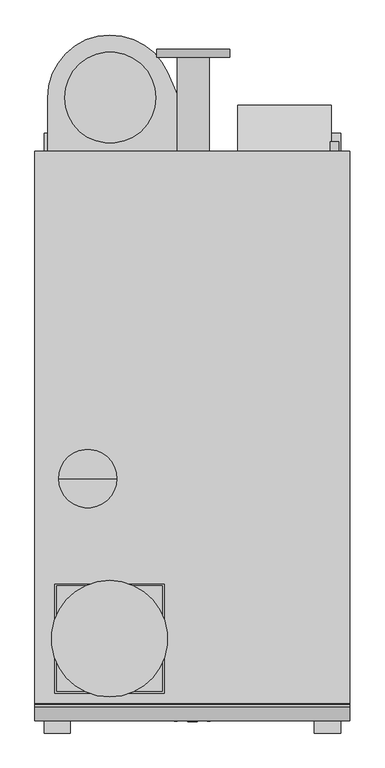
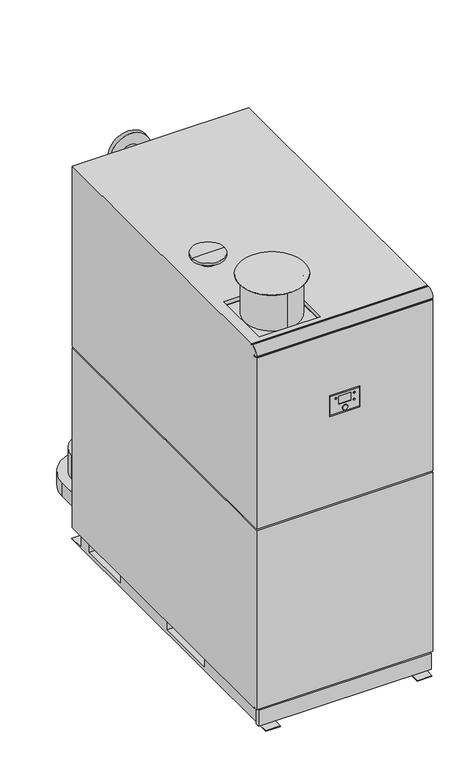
"""IFC4 building model written with IfcOpenShell, lengths in millimetres: unitary equipment geometry, AIC_Boiler_Nesta_Plus_280-840 : N 840 FS Chimney Type B."""

from ifc_helpers import new_model, si_unit, point, frame, frame_2d, origin, place, context, project, spatial, polyline, circle_curve, trimmed, segment, composite_curve, outline, extrude, faceted_brep, source, transform, mapped, element, save
from ifc_brep_helpers import plane_surface, cylinder_surface, advanced_brep


def unitary_equipment_1de9a510(model_context):
    return source(origin(), model_context, "Body", "SolidModel", [
        extrude(outline(composite_curve([segment(trimmed(circle_curve(frame_2d((100.0, 329.5)), 13.35), [point((100.0, 342.85))], [point((100.0, 316.15))], False, "CARTESIAN"), True, "CONTINUOUS"), segment(trimmed(circle_curve(frame_2d((100.0, 329.5)), 13.35), [point((100.0, 316.15))], [point((100.0, 342.85))], False, "CARTESIAN"), True, "CONTINUOUS")], self_intersect=False)), frame((0.0, 91.0, 0.0), z_axis=(0.0, 1.0, 0.0), x_axis=(0.0, 0.0, 1.0)), (0.0, 0.0, 1.0), 24.0),
        faceted_brep([(382.5, 0.0, 80.0), (382.5, 126.0, 80.0), (382.5, 126.0, 81.0), (382.5, 1.0, 81.0), (382.5, 1.0, 140.0), (382.5, 126.0, 140.0), (382.5, 126.0, 242.0), (382.5, 0.0, 310.0), (124.5, 0.0, 80.0), (124.5, 0.0, 310.0), (124.5, 126.0, 242.0), (124.5, 126.0, 80.0), (300.5, 126.0, 140.0), (300.5, 126.0, 81.0), (349.5, 1.0, 140.0), (349.5, 1.0, 81.0), (349.5, 91.0, 81.0), (349.5, 91.0, 140.0), (300.5, 91.0, 81.0), (300.5, 91.0, 140.0)], [[[0, 1, 2, 3, 4, 5, 6, 7]], [[8, 9, 10, 11]], [[1, 0, 8, 11]], [[11, 10, 6, 5, 12, 13, 2, 1]], [[7, 6, 10, 9]], [[0, 7, 9, 8]], [[14, 4, 3, 15]], [[14, 15, 16, 17]], [[15, 3, 2, 13, 18, 16]], [[4, 14, 17, 19, 12, 5]], [[19, 17, 16, 18]], [[19, 18, 13, 12]]]),
        extrude(outline(composite_curve([segment(trimmed(circle_curve(frame_2d((1520.0, 0.0)), 13.0), [point((1520.0, -13.0))], [point((1520.0, 13.0))], False, "CARTESIAN"), True, "CONTINUOUS"), segment(trimmed(circle_curve(frame_2d((1520.0, 0.0)), 13.0), [point((1520.0, 13.0))], [point((1520.0, -13.0))], False, "CARTESIAN"), True, "CONTINUOUS")], self_intersect=False)), frame((0.0, -1568.0, 0.0), z_axis=(0.0, 1.0, 0.0), x_axis=(0.0, 0.0, 1.0)), (0.0, 0.0, 1.0), 3.0),
        extrude(outline(composite_curve([segment(trimmed(circle_curve(frame_2d((1581.0, -45.0)), 4.0), [point((1581.0, -49.0))], [point((1581.0, -41.0))], False, "CARTESIAN"), True, "CONTINUOUS"), segment(trimmed(circle_curve(frame_2d((1581.0, -45.0)), 4.0), [point((1581.0, -41.0))], [point((1581.0, -49.0))], False, "CARTESIAN"), True, "CONTINUOUS")], self_intersect=False)), frame((0.0, -1567.0, 0.0), z_axis=(0.0, 1.0, 0.0), x_axis=(0.0, 0.0, 1.0)), (0.0, 0.0, 1.0), 2.0),
        extrude(outline(composite_curve([segment(trimmed(circle_curve(frame_2d((1581.0, 45.0)), 4.0), [point((1581.0, 41.0))], [point((1581.0, 49.0))], False, "CARTESIAN"), True, "CONTINUOUS"), segment(trimmed(circle_curve(frame_2d((1581.0, 45.0)), 4.0), [point((1581.0, 49.0))], [point((1581.0, 41.0))], False, "CARTESIAN"), True, "CONTINUOUS")], self_intersect=False)), frame((0.0, -1567.0, 0.0), z_axis=(0.0, 1.0, 0.0), x_axis=(0.0, 0.0, 1.0)), (0.0, 0.0, 1.0), 2.0),
        extrude(outline(composite_curve([segment(trimmed(circle_curve(frame_2d((1546.0, 45.0)), 4.0), [point((1546.0, 41.0))], [point((1546.0, 49.0))], False, "CARTESIAN"), True, "CONTINUOUS"), segment(trimmed(circle_curve(frame_2d((1546.0, 45.0)), 4.0), [point((1546.0, 49.0))], [point((1546.0, 41.0))], False, "CARTESIAN"), True, "CONTINUOUS")], self_intersect=False)), frame((0.0, -1567.0, 0.0), z_axis=(0.0, 1.0, 0.0), x_axis=(0.0, 0.0, 1.0)), (0.0, 0.0, 1.0), 2.0),
        faceted_brep([(71.0, -1555.0, 1596.0), (71.0, -1555.0, 1502.0), (-71.0, -1555.0, 1502.0), (-71.0, -1555.0, 1596.0), (71.0, -1565.0, 1596.0), (-71.0, -1565.0, 1596.0), (-71.0, -1565.0, 1502.0), (71.0, -1565.0, 1502.0), (-30.0, -1565.0, 1585.0), (30.0, -1565.0, 1585.0), (30.0, -1565.0, 1545.0), (-30.0, -1565.0, 1545.0), (30.0, -1564.0, 1585.0), (-30.0, -1564.0, 1585.0), (-30.0, -1564.0, 1545.0), (30.0, -1564.0, 1545.0)], [[[0, 1, 2, 3]], [[4, 5, 6, 7], [8, 9, 10, 11]], [[0, 3, 5, 4]], [[3, 2, 6, 5]], [[2, 1, 7, 6]], [[1, 0, 4, 7]], [[12, 13, 14, 15]], [[13, 12, 9, 8]], [[14, 13, 8, 11]], [[15, 14, 11, 10]], [[12, 15, 10, 9]]]),
        advanced_brep(
        [(-287.5, -900.0, 1970.0), (-324.5, -900.0, 1970.0), (-250.5, -900.0, 1970.0), (-207.5, -900.0, 2017.0), (-367.5, -900.0, 2017.0), (-287.5, -900.0, 2017.0), (-207.5, -900.0, 2006.0), (-367.5, -900.0, 2006.0), (-250.5, -900.0, 2006.0), (-324.5, -900.0, 2006.0)],
        [
            (0, 1),
            (1, 2, circle_curve(frame((-287.5, -900.0, 1970.0), z_axis=(0.0, 0.0, -1.0), x_axis=(-1.0, 0.0, 0.0)), 37.0)),
            (2, 0),
            (2, 1, circle_curve(frame((-287.5, -900.0, 1970.0), z_axis=(0.0, 0.0, -1.0), x_axis=(-1.0, 0.0, 0.0)), 37.0)),
            (3, 4, circle_curve(frame((-287.5, -900.0, 2017.0), z_axis=(0.0, 0.0, 1.0), x_axis=(-1.0, 0.0, 0.0)), 80.0)),
            (4, 5),
            (5, 3),
            (4, 3, circle_curve(frame((-287.5, -900.0, 2017.0), z_axis=(0.0, 0.0, 1.0), x_axis=(-1.0, 0.0, 0.0)), 80.0)),
            (6, 7, circle_curve(frame((-287.5, -900.0, 2006.0), z_axis=(0.0, 0.0, 1.0), x_axis=(-1.0, 0.0, 0.0)), 80.0)),
            (7, 4),
            (3, 6),
            (7, 6, circle_curve(frame((-287.5, -900.0, 2006.0), z_axis=(0.0, 0.0, 1.0), x_axis=(-1.0, 0.0, 0.0)), 80.0)),
            (8, 9, circle_curve(frame((-287.5, -900.0, 2006.0), z_axis=(0.0, 0.0, 1.0), x_axis=(-1.0, 0.0, 0.0)), 37.0)),
            (9, 7),
            (6, 8),
            (9, 8, circle_curve(frame((-287.5, -900.0, 2006.0), z_axis=(0.0, 0.0, 1.0), x_axis=(-1.0, 0.0, 0.0)), 37.0)),
            (1, 9),
            (8, 2),
        ],
        [
            plane_surface(frame((-287.5, -900.0, 1970.0), z_axis=(0.0, 0.0, -1.0), x_axis=(-1.0, 0.0, 0.0))),
            plane_surface(frame((-287.5, -900.0, 2017.0), z_axis=(0.0, 0.0, 1.0), x_axis=(-1.0, 0.0, 0.0))),
            cylinder_surface(frame((-287.5, -900.0, 1945.0), z_axis=(0.0, 0.0, -1.0), x_axis=(-1.0, 0.0, 0.0)), 80.0),
            plane_surface(frame((-287.5, -900.0, 2006.0), z_axis=(0.0, 0.0, -1.0), x_axis=(-1.0, 0.0, 0.0))),
            cylinder_surface(frame((-287.5, -900.0, 1945.0), z_axis=(0.0, 0.0, -1.0), x_axis=(-1.0, 0.0, 0.0)), 37.0),
        ],
        [
            (0, [[1, 2, 3]]),
            (0, [[-3, 4, -1]]),
            (1, [[5, 6, 7]]),
            (1, [[8, -7, -6]]),
            (2, [[9, 10, -5, 11]]),
            (2, [[12, -11, -8, -10]]),
            (3, [[13, 14, -9, 15]]),
            (3, [[16, -15, -12, -14]]),
            (4, [[-2, 17, -13, 18]]),
            (4, [[-4, -18, -16, -17]]),
        ],
    ),
        extrude(outline(composite_curve([segment(trimmed(circle_curve(frame_2d((1038.0, 390.5)), 11.6), [point((1038.0, 378.9))], [point((1038.0, 402.1))], False, "CARTESIAN"), True, "CONTINUOUS"), segment(trimmed(circle_curve(frame_2d((1038.0, 390.5)), 11.6), [point((1038.0, 402.1))], [point((1038.0, 378.9))], False, "CARTESIAN"), True, "CONTINUOUS")], self_intersect=False)), frame((0.0, 0.0, 0.0), z_axis=(0.0, 1.0, 0.0), x_axis=(0.0, 0.0, 1.0)), (0.0, 0.0, 1.0), 26.0),
        advanced_brep(
        [(-227.5, -1180.0, 2154.0), (-227.5, -1500.0, 2154.0), (-227.5, -1475.0, 2154.0), (-227.5, -1205.0, 2154.0), (-227.5, -1180.0, 2155.0), (-227.5, -1500.0, 2155.0), (-227.5, -1205.0, 1950.0), (-227.5, -1475.0, 1950.0)],
        [
            (0, 1, circle_curve(frame((-227.5, -1340.0, 2154.0), z_axis=(0.0, 0.0, -1.0), x_axis=(0.0, -1.0, 0.0)), 160.0)),
            (1, 0, circle_curve(frame((-227.5, -1340.0, 2154.0), z_axis=(0.0, 0.0, -1.0), x_axis=(0.0, -1.0, 0.0)), 160.0)),
            (2, 3, circle_curve(frame((-227.5, -1340.0, 2154.0), z_axis=(0.0, 0.0, 1.0), x_axis=(0.0, -1.0, 0.0)), 135.0)),
            (3, 2, circle_curve(frame((-227.5, -1340.0, 2154.0), z_axis=(0.0, 0.0, 1.0), x_axis=(0.0, -1.0, 0.0)), 135.0)),
            (4, 5, circle_curve(frame((-227.5, -1340.0, 2155.0), z_axis=(0.0, 0.0, 1.0), x_axis=(0.0, -1.0, 0.0)), 160.0)),
            (5, 4, circle_curve(frame((-227.5, -1340.0, 2155.0), z_axis=(0.0, 0.0, 1.0), x_axis=(0.0, -1.0, 0.0)), 160.0)),
            (0, 4),
            (5, 1),
            (6, 7, circle_curve(frame((-227.5, -1340.0, 1950.0), z_axis=(0.0, 0.0, -1.0), x_axis=(0.0, -1.0, 0.0)), 135.0)),
            (7, 6, circle_curve(frame((-227.5, -1340.0, 1950.0), z_axis=(0.0, 0.0, -1.0), x_axis=(0.0, -1.0, 0.0)), 135.0)),
            (6, 3),
            (2, 7),
        ],
        [
            plane_surface(frame((-227.5, -1500.0, 2154.0), z_axis=(0.0, 0.0, -1.0), x_axis=(-1.0, 0.0, 0.0))),
            plane_surface(frame((-227.5, -1500.0, 2155.0), z_axis=(0.0, 0.0, 1.0), x_axis=(1.0, 0.0, 0.0))),
            cylinder_surface(frame((-227.5, -1340.0, 2155.0), z_axis=(0.0, 0.0, -1.0), x_axis=(0.0, -1.0, 0.0)), 160.0),
            plane_surface(frame((-227.5, -1475.0, 1950.0), z_axis=(0.0, 0.0, -1.0), x_axis=(-1.0, 0.0, 0.0))),
            cylinder_surface(frame((-227.5, -1340.0, 2154.0), z_axis=(0.0, 0.0, -1.0), x_axis=(0.0, -1.0, 0.0)), 135.0),
        ],
        [
            (0, [[1, 2], [3, 4]]),
            (1, [[5, 6]]),
            (2, [[-1, 7, -6, 8]]),
            (2, [[-2, -8, -5, -7]]),
            (3, [[9, 10]]),
            (4, [[-9, 11, -3, 12]]),
            (4, [[-10, -12, -4, -11]]),
        ],
    ),
        extrude(outline(polyline([(-82.5, -1195.0), (-82.5, -1485.0), (-372.5, -1485.0), (-372.5, -1195.0), (-82.5, -1195.0)])), frame((0.0, 0.0, 1950.0), z_axis=(0.0, 0.0, 1.0), x_axis=(1.0, 0.0, 0.0)), (0.0, 0.0, 1.0), 1.0),
        advanced_brep(
        [(102.5, 258.0, 1731.0), (-97.5, 258.0, 1731.0), (46.5, 258.0, 1731.0), (-41.5, 258.0, 1731.0), (102.5, 280.0, 1731.0), (-97.5, 280.0, 1731.0), (-41.5, -10.0, 1731.0), (46.5, -10.0, 1731.0)],
        [
            (0, 1, circle_curve(frame((2.5, 258.0, 1731.0), z_axis=(0.0, -1.0, 0.0), x_axis=(-1.0, 0.0, 0.0)), 100.0)),
            (1, 0, circle_curve(frame((2.5, 258.0, 1731.0), z_axis=(0.0, -1.0, 0.0), x_axis=(-1.0, 0.0, 0.0)), 100.0)),
            (2, 3, circle_curve(frame((2.5, 258.0, 1731.0), z_axis=(0.0, 1.0, 0.0), x_axis=(1.0, 0.0, 0.0)), 44.0)),
            (3, 2, circle_curve(frame((2.5, 258.0, 1731.0), z_axis=(0.0, 1.0, 0.0), x_axis=(1.0, 0.0, 0.0)), 44.0)),
            (4, 5, circle_curve(frame((2.5, 280.0, 1731.0), z_axis=(0.0, 1.0, 0.0), x_axis=(-1.0, 0.0, 0.0)), 100.0)),
            (5, 4, circle_curve(frame((2.5, 280.0, 1731.0), z_axis=(0.0, 1.0, 0.0), x_axis=(-1.0, 0.0, 0.0)), 100.0)),
            (1, 5),
            (4, 0),
            (6, 7, circle_curve(frame((2.5, -10.0, 1731.0), z_axis=(0.0, -1.0, 0.0), x_axis=(1.0, 0.0, 0.0)), 44.0)),
            (7, 6, circle_curve(frame((2.5, -10.0, 1731.0), z_axis=(0.0, -1.0, 0.0), x_axis=(1.0, 0.0, 0.0)), 44.0)),
            (6, 3),
            (2, 7),
        ],
        [
            plane_surface(frame((-97.5, 258.0, 1731.0), z_axis=(0.0, -1.0, 0.0), x_axis=(0.0, 0.0, -1.0))),
            plane_surface(frame((-97.5, 280.0, 1731.0), z_axis=(0.0, 1.0, 0.0), x_axis=(0.0, 0.0, 1.0))),
            cylinder_surface(frame((2.5, 258.0, 1731.0), z_axis=(0.0, 1.0, 0.0), x_axis=(-1.0, 0.0, 0.0)), 100.0),
            plane_surface(frame((46.5, -10.0, 1731.0), z_axis=(0.0, -1.0, 0.0), x_axis=(0.0, 0.0, 1.0))),
            cylinder_surface(frame((2.5, 280.0, 1731.0), z_axis=(0.0, -1.0, 0.0), x_axis=(1.0, 0.0, 0.0)), 44.0),
        ],
        [
            (0, [[1, 2], [3, 4]]),
            (1, [[5, 6]]),
            (2, [[-2, 7, -5, 8]]),
            (2, [[-1, -8, -6, -7]]),
            (3, [[9, 10]]),
            (4, [[-9, 11, -3, 12]]),
            (4, [[-10, -12, -4, -11]]),
        ],
    ),
        advanced_brep(
        [(-41.5, 0.0, 360.0), (46.5, 0.0, 360.0), (102.5, 280.0, 360.0), (-97.5, 280.0, 360.0), (-41.5, 258.0, 360.0), (46.5, 258.0, 360.0), (102.5, 258.0, 360.0), (-97.5, 258.0, 360.0)],
        [
            (0, 1, circle_curve(frame((2.5, 0.0, 360.0), z_axis=(0.0, -1.0, 0.0), x_axis=(1.0, 0.0, 0.0)), 44.0)),
            (1, 0, circle_curve(frame((2.5, 0.0, 360.0), z_axis=(0.0, -1.0, 0.0), x_axis=(1.0, 0.0, 0.0)), 44.0)),
            (2, 3, circle_curve(frame((2.5, 280.0, 360.0), z_axis=(0.0, 1.0, 0.0), x_axis=(-1.0, 0.0, 0.0)), 100.0)),
            (3, 2, circle_curve(frame((2.5, 280.0, 360.0), z_axis=(0.0, 1.0, 0.0), x_axis=(-1.0, 0.0, 0.0)), 100.0)),
            (0, 4),
            (4, 5, circle_curve(frame((2.5, 258.0, 360.0), z_axis=(0.0, -1.0, 0.0), x_axis=(1.0, 0.0, 0.0)), 44.0)),
            (5, 1),
            (5, 4, circle_curve(frame((2.5, 258.0, 360.0), z_axis=(0.0, -1.0, 0.0), x_axis=(1.0, 0.0, 0.0)), 44.0)),
            (6, 7, circle_curve(frame((2.5, 258.0, 360.0), z_axis=(0.0, -1.0, 0.0), x_axis=(-1.0, 0.0, 0.0)), 100.0)),
            (7, 6, circle_curve(frame((2.5, 258.0, 360.0), z_axis=(0.0, -1.0, 0.0), x_axis=(-1.0, 0.0, 0.0)), 100.0)),
            (7, 3),
            (2, 6),
        ],
        [
            plane_surface(frame((46.5, 0.0, 360.0), z_axis=(0.0, -1.0, 0.0), x_axis=(0.0, 0.0, 1.0))),
            plane_surface(frame((46.5, 280.0, 360.0), z_axis=(0.0, 1.0, 0.0), x_axis=(0.0, 0.0, -1.0))),
            cylinder_surface(frame((2.5, 280.0, 360.0), z_axis=(0.0, -1.0, 0.0), x_axis=(1.0, 0.0, 0.0)), 44.0),
            plane_surface(frame((-97.5, 258.0, 360.0), z_axis=(0.0, -1.0, 0.0), x_axis=(0.0, 0.0, -1.0))),
            cylinder_surface(frame((2.5, 258.0, 360.0), z_axis=(0.0, 1.0, 0.0), x_axis=(-1.0, 0.0, 0.0)), 100.0),
        ],
        [
            (0, [[1, 2]]),
            (1, [[3, 4]]),
            (2, [[-1, 5, 6, 7]]),
            (2, [[-2, -7, 8, -5]]),
            (3, [[9, 10], [-6, -8]]),
            (4, [[-10, 11, -3, 12]]),
            (4, [[-9, -12, -4, -11]]),
        ],
    ),
        extrude(outline(composite_curve([segment(trimmed(circle_curve(frame_2d((-225.5, 147.0)), 125.0), [point((-100.5, 147.0))], [point((-350.5, 147.0))], False, "CARTESIAN"), True, "CONTINUOUS"), segment(trimmed(circle_curve(frame_2d((-225.5, 147.0)), 125.0), [point((-350.5, 147.0))], [point((-100.5, 147.0))], False, "CARTESIAN"), True, "CONTINUOUS")], self_intersect=False)), frame((0.0, 0.0, 228.0), z_axis=(0.0, 0.0, 1.0), x_axis=(1.0, 0.0, 0.0)), (0.0, 0.0, 1.0), 122.0),
        extrude(outline(composite_curve([segment(trimmed(circle_curve(frame_2d((-225.5, 147.0)), 172.2664787), [point((-397.7664787, 147.0))], [point((-67.3169163, 215.2191449))], False, "CARTESIAN"), True, "CONTINUOUS"), segment(polyline([(-67.3169163, 215.2191449), (25.5, 0.0), (-397.7664787, 0.0), (-397.7664787, 147.0)]), True, "CONTINUOUS")], self_intersect=False)), frame((0.0, 0.0, 157.0), z_axis=(0.0, 0.0, 1.0), x_axis=(1.0, 0.0, 0.0)), (0.0, 0.0, 1.0), 71.0),
        advanced_brep(
        [(432.5, 0.0, 1970.0), (-432.5, 0.0, 1970.0), (-432.5, -1517.0, 1970.0), (432.5, -1517.0, 1970.0), (-377.5, -1190.0, 1970.0), (-77.5, -1190.0, 1970.0), (-77.5, -1490.0, 1970.0), (-377.5, -1490.0, 1970.0), (-432.5, -1526.6616502, 1970.0), (432.5, -1526.6616502, 1970.0), (432.5, -1521.0, 1970.0), (-432.5, -1521.0, 1970.0), (36.0, -1545.0, 0.0), (-36.0, -1545.0, 0.0), (-36.0, -31.0, 0.0), (36.0, -31.0, 0.0), (-407.5, 49.0, 0.0), (-335.5, 49.0, 0.0), (-335.5, -1599.0, 0.0), (-407.5, -1599.0, 0.0), (335.5, 49.0, 0.0), (407.5, 49.0, 0.0), (407.5, -1599.0, 0.0), (335.5, -1599.0, 0.0), (432.5, 0.0, 1036.0), (432.5, -1517.0, 1968.0), (432.5, -1521.0, 1968.0), (432.5, -1565.0, 1931.6616502), (432.5, -1565.0, 1929.0), (432.5, -1545.0, 1929.0), (432.5, -1545.0, 1923.0), (432.5, -1565.0, 1923.0), (432.5, -1565.0, 1036.0), (432.5, 0.0, 1030.0), (432.5, -1565.0, 1030.0), (432.5, -1565.0, 100.0), (432.5, -1545.0, 100.0), (432.5, -1545.0, 95.0), (432.5, 0.0, 95.0), (423.5, 0.0, 1036.0), (423.5, 0.0, 1030.0), (-432.5, 0.0, 95.0), (-432.5, 0.0, 1030.0), (-423.5, 0.0, 1030.0), (-423.5, 0.0, 1036.0), (-432.5, 0.0, 1036.0), (-432.5, -1565.0, 1036.0), (-432.5, -1565.0, 1923.0), (-432.5, -1545.0, 1923.0), (-432.5, -1545.0, 1929.0), (-432.5, -1565.0, 1929.0), (-432.5, -1565.0, 1931.6616502), (-432.5, -1521.0, 1968.0), (-432.5, -1517.0, 1968.0), (-432.5, -1565.0, 1030.0), (-432.5, -1545.0, 95.0), (-432.5, -1545.0, 100.0), (-432.5, -1565.0, 100.0), (-73.0, -1565.0, 1603.0), (73.0, -1565.0, 1603.0), (73.0, -1565.0, 1495.0), (-73.0, -1565.0, 1495.0), (423.5, -1565.0, 12.0), (423.5, -1565.0, 95.0), (-423.5, -1565.0, 95.0), (-423.5, -1565.0, 12.0), (-423.5, -1545.0, 1036.0), (423.5, -1545.0, 1036.0), (423.5, -1545.0, 1030.0), (-423.5, -1545.0, 1030.0), (36.0, -1545.0, 12.0), (-36.0, -1545.0, 12.0), (-423.5, -1545.0, 95.0), (-407.5, -1545.0, 95.0), (-335.5, -1545.0, 95.0), (-36.0, -1545.0, 95.0), (36.0, -1545.0, 95.0), (335.5, -1545.0, 95.0), (407.5, -1545.0, 95.0), (423.5, -1545.0, 95.0), (-335.5, -1545.0, 12.0), (-407.5, -1545.0, 12.0), (-407.5, -1545.0, 3.0), (-335.5, -1545.0, 3.0), (407.5, -1545.0, 12.0), (335.5, -1545.0, 12.0), (335.5, -1545.0, 3.0), (407.5, -1545.0, 3.0), (423.5, -1545.0, 12.0), (-423.5, -1545.0, 12.0), (-36.0, -1545.0, 95.0), (-335.5, -1545.0, 95.0), (-335.5, -31.0, 95.0), (-407.5, -31.0, 95.0), (-407.5, -1545.0, 95.0), (407.5, -1545.0, 95.0), (407.5, -31.0, 95.0), (335.5, -31.0, 95.0), (335.5, -1545.0, 95.0), (36.0, -1545.0, 95.0), (36.0, -31.0, 95.0), (-36.0, -31.0, 95.0), (-407.5, -31.0, 3.0), (-407.5, 49.0, 3.0), (-407.5, -1599.0, 3.0), (-407.5, -762.0, 80.0), (-407.5, -1077.0, 80.0), (-407.5, -1077.0, 20.0), (-407.5, -762.0, 20.0), (-407.5, -100.0, 80.0), (-407.5, -362.0, 80.0), (-407.5, -362.0, 20.0), (-407.5, -100.0, 20.0), (407.5, -1599.0, 3.0), (407.5, 49.0, 3.0), (407.5, -31.0, 3.0), (407.5, -1077.0, 80.0), (407.5, -762.0, 80.0), (407.5, -762.0, 20.0), (407.5, -1077.0, 20.0), (407.5, -362.0, 80.0), (407.5, -100.0, 80.0), (407.5, -100.0, 20.0), (407.5, -362.0, 20.0), (-335.5, -1599.0, 3.0), (-335.5, 49.0, 3.0), (-335.5, -31.0, 3.0), (-335.5, -1077.0, 80.0), (-335.5, -762.0, 80.0), (-335.5, -762.0, 20.0), (-335.5, -1077.0, 20.0), (-335.5, -362.0, 80.0), (-335.5, -100.0, 80.0), (-335.5, -100.0, 20.0), (-335.5, -362.0, 20.0), (-36.0, -762.0, 80.0), (-36.0, -1077.0, 80.0), (-36.0, -1077.0, 20.0), (-36.0, -762.0, 20.0), (-36.0, -100.0, 80.0), (-36.0, -362.0, 80.0), (-36.0, -362.0, 20.0), (-36.0, -100.0, 20.0), (36.0, -1077.0, 80.0), (36.0, -762.0, 80.0), (36.0, -762.0, 20.0), (36.0, -1077.0, 20.0), (36.0, -362.0, 80.0), (36.0, -100.0, 80.0), (36.0, -100.0, 20.0), (36.0, -362.0, 20.0), (335.5, -31.0, 3.0), (335.5, 49.0, 3.0), (335.5, -1599.0, 3.0), (335.5, -762.0, 80.0), (335.5, -1077.0, 80.0), (335.5, -1077.0, 20.0), (335.5, -762.0, 20.0), (335.5, -100.0, 80.0), (335.5, -362.0, 80.0), (335.5, -362.0, 20.0), (335.5, -100.0, 20.0), (73.0, -1545.0, 1603.0), (-73.0, -1545.0, 1603.0), (-73.0, -1545.0, 1495.0), (73.0, -1545.0, 1495.0), (-77.5, -1190.0, 1950.0), (-377.5, -1190.0, 1950.0), (-377.5, -1490.0, 1950.0), (-77.5, -1490.0, 1950.0)],
        [
            (0, 1),
            (1, 2),
            (2, 3),
            (3, 0),
            (4, 5),
            (5, 6),
            (6, 7),
            (7, 4),
            (8, 9),
            (9, 10),
            (10, 11),
            (11, 8),
            (12, 13),
            (13, 14),
            (14, 15),
            (15, 12),
            (16, 17),
            (17, 18),
            (18, 19),
            (19, 16),
            (20, 21),
            (21, 22),
            (22, 23),
            (23, 20),
            (24, 0),
            (3, 25),
            (25, 26),
            (26, 10),
            (9, 27, circle_curve(frame((432.5, -1526.6616502, 1931.6616502), z_axis=(1.0, 0.0, 0.0), x_axis=(0.0, 1.0, 0.0)), 38.3383498)),
            (27, 28),
            (28, 29),
            (29, 30),
            (30, 31),
            (31, 32),
            (32, 24),
            (33, 34),
            (34, 35),
            (35, 36),
            (36, 37),
            (37, 38),
            (38, 33),
            (24, 39),
            (39, 40),
            (40, 33),
            (38, 41),
            (41, 42),
            (42, 43),
            (43, 44),
            (44, 45),
            (45, 1),
            (45, 46),
            (46, 47),
            (47, 48),
            (48, 49),
            (49, 50),
            (50, 51),
            (51, 8, circle_curve(frame((-432.5, -1526.6616502, 1931.6616502), z_axis=(-1.0, 0.0, 0.0), x_axis=(0.0, 1.0, 0.0)), 38.3383498)),
            (11, 52),
            (52, 53),
            (53, 2),
            (54, 42),
            (41, 55),
            (55, 56),
            (56, 57),
            (57, 54),
            (46, 32),
            (31, 47),
            (58, 59),
            (59, 60),
            (60, 61),
            (61, 58),
            (34, 54),
            (57, 35),
            (27, 51),
            (50, 28),
            (62, 63),
            (63, 64),
            (64, 65),
            (65, 62),
            (44, 66),
            (66, 67),
            (67, 39),
            (40, 68),
            (68, 69),
            (69, 43),
            (67, 68),
            (66, 69),
            (30, 48),
            (29, 49),
            (26, 52),
            (25, 53),
            (12, 70),
            (70, 71),
            (71, 13),
            (36, 56),
            (55, 72),
            (72, 73),
            (73, 74),
            (74, 75),
            (75, 76),
            (76, 77),
            (77, 78),
            (78, 79),
            (79, 37),
            (80, 81),
            (81, 82),
            (82, 83),
            (83, 80),
            (84, 85),
            (85, 86),
            (86, 87),
            (87, 84),
            (62, 88),
            (88, 79),
            (79, 63),
            (65, 89),
            (89, 81),
            (80, 71),
            (70, 85),
            (84, 88),
            (64, 72),
            (72, 89),
            (90, 91),
            (91, 92),
            (92, 93),
            (93, 94),
            (94, 72),
            (79, 95),
            (95, 96),
            (96, 97),
            (97, 98),
            (98, 99),
            (99, 100),
            (100, 101),
            (101, 90),
            (94, 81),
            (93, 102),
            (102, 103),
            (103, 16),
            (19, 104),
            (104, 82),
            (105, 106),
            (106, 107),
            (107, 108),
            (108, 105),
            (109, 110),
            (110, 111),
            (111, 112),
            (112, 109),
            (95, 84),
            (87, 113),
            (113, 22),
            (21, 114),
            (114, 115),
            (115, 96),
            (116, 117),
            (117, 118),
            (118, 119),
            (119, 116),
            (120, 121),
            (121, 122),
            (122, 123),
            (123, 120),
            (91, 80),
            (83, 124),
            (124, 18),
            (17, 125),
            (125, 126),
            (126, 92),
            (127, 128),
            (128, 129),
            (129, 130),
            (130, 127),
            (131, 132),
            (132, 133),
            (133, 134),
            (134, 131),
            (90, 71),
            (101, 14),
            (135, 136),
            (136, 137),
            (137, 138),
            (138, 135),
            (139, 140),
            (140, 141),
            (141, 142),
            (142, 139),
            (99, 70),
            (15, 100),
            (143, 144),
            (144, 145),
            (145, 146),
            (146, 143),
            (147, 148),
            (148, 149),
            (149, 150),
            (150, 147),
            (98, 85),
            (97, 151),
            (151, 152),
            (152, 20),
            (23, 153),
            (153, 86),
            (154, 155),
            (155, 156),
            (156, 157),
            (157, 154),
            (158, 159),
            (159, 160),
            (160, 161),
            (161, 158),
            (126, 102),
            (115, 151),
            (105, 128),
            (127, 106),
            (135, 144),
            (143, 136),
            (154, 117),
            (116, 155),
            (130, 107),
            (146, 137),
            (119, 156),
            (129, 108),
            (145, 138),
            (118, 157),
            (109, 132),
            (131, 110),
            (139, 148),
            (147, 140),
            (158, 121),
            (120, 159),
            (134, 111),
            (150, 141),
            (123, 160),
            (133, 112),
            (149, 142),
            (122, 161),
            (114, 152),
            (125, 103),
            (104, 124),
            (153, 113),
            (162, 163),
            (163, 164),
            (164, 165),
            (165, 162),
            (162, 59),
            (58, 163),
            (61, 164),
            (60, 165),
            (166, 167),
            (167, 168),
            (168, 169),
            (169, 166),
            (166, 5),
            (4, 167),
            (7, 168),
            (6, 169),
        ],
        [
            plane_surface(frame((432.5, -1565.0, 1970.0), z_axis=(0.0, 0.0, 1.0), x_axis=(0.0, 1.0, 0.0))),
            plane_surface(frame((432.5, -1565.0, 0.0), z_axis=(0.0, 0.0, -1.0), x_axis=(0.0, -1.0, 0.0))),
            plane_surface(frame((432.5, -1565.0, 1970.0), z_axis=(1.0, 0.0, 0.0), x_axis=(0.0, 0.0, -1.0))),
            plane_surface(frame((432.5, 0.0, 1970.0), z_axis=(0.0, 1.0, 0.0), x_axis=(0.0, 0.0, -1.0))),
            plane_surface(frame((-432.5, 0.0, 1970.0), z_axis=(-1.0, 0.0, 0.0), x_axis=(0.0, 0.0, -1.0))),
            plane_surface(frame((-432.5, -1565.0, 1970.0), z_axis=(0.0, -1.0, 0.0), x_axis=(0.0, 0.0, -1.0))),
            plane_surface(frame((-432.5, 0.0, 1036.0), z_axis=(0.0, 0.0, -1.0), x_axis=(-1.0, 0.0, 0.0))),
            plane_surface(frame((-432.5, 0.0, 1030.0), z_axis=(0.0, 0.0, 1.0), x_axis=(1.0, 0.0, 0.0))),
            plane_surface(frame((423.5, 0.0, 1036.0), z_axis=(1.0, 0.0, 0.0), x_axis=(0.0, 0.0, -1.0))),
            plane_surface(frame((423.5, -1545.0, 1036.0), z_axis=(0.0, -1.0, 0.0), x_axis=(0.0, 0.0, -1.0))),
            plane_surface(frame((-423.5, -1545.0, 1036.0), z_axis=(-1.0, 0.0, 0.0), x_axis=(0.0, 0.0, -1.0))),
            cylinder_surface(frame((-432.5, -1526.6616502, 1931.6616502), z_axis=(-1.0, 0.0, 0.0), x_axis=(0.0, 1.0, 0.0)), 38.3383498),
            plane_surface(frame((432.5, -1565.0, 1923.0), z_axis=(0.0, 0.0, 1.0), x_axis=(-1.0, 0.0, 0.0))),
            plane_surface(frame((432.5, -1545.0, 1923.0), z_axis=(0.0, -1.0, 0.0), x_axis=(-1.0, 0.0, 0.0))),
            plane_surface(frame((432.5, -1545.0, 1929.0), z_axis=(0.0, 0.0, -1.0), x_axis=(-1.0, 0.0, 0.0))),
            plane_surface(frame((432.5, -1521.0, 1970.0), z_axis=(0.0, 1.0, 0.0), x_axis=(-1.0, 0.0, 0.0))),
            plane_surface(frame((432.5, -1521.0, 1968.0), z_axis=(0.0, 0.0, 1.0), x_axis=(-1.0, 0.0, 0.0))),
            plane_surface(frame((432.5, -1517.0, 1968.0), z_axis=(0.0, -1.0, 0.0), x_axis=(-1.0, 0.0, 0.0))),
            plane_surface(frame((423.5, -1545.0, 95.0), z_axis=(0.0, -1.0, 0.0), x_axis=(0.0, 0.0, 1.0))),
            plane_surface(frame((423.5, -1565.0, 95.0), z_axis=(1.0, 0.0, 0.0), x_axis=(0.0, 1.0, 0.0))),
            plane_surface(frame((423.5, -1565.0, 12.0), z_axis=(0.0, 0.0, -1.0), x_axis=(0.0, 1.0, 0.0))),
            plane_surface(frame((-423.5, -1565.0, 12.0), z_axis=(-1.0, 0.0, 0.0), x_axis=(0.0, 1.0, 0.0))),
            plane_surface(frame((-423.5, -1565.0, 95.0), z_axis=(0.0, 0.0, 1.0), x_axis=(0.0, 1.0, 0.0))),
            plane_surface(frame((432.5, -1565.0, 100.0), z_axis=(0.0, 0.0, -1.0), x_axis=(0.0, 1.0, 0.0))),
            plane_surface(frame((-432.5, 0.0, 95.0), z_axis=(0.0, 0.0, -1.0), x_axis=(-1.0, 0.0, 0.0))),
            plane_surface(frame((-432.5, -1545.0, 95.0), z_axis=(0.0, 1.0, 0.0), x_axis=(0.0, 0.0, -1.0))),
            plane_surface(frame((-407.5, -1545.0, 95.0), z_axis=(-1.0, 0.0, 0.0), x_axis=(0.0, 0.0, -1.0))),
            plane_surface(frame((407.5, 0.0, 95.0), z_axis=(1.0, 0.0, 0.0), x_axis=(0.0, 0.0, -1.0))),
            plane_surface(frame((407.5, -1545.0, 95.0), z_axis=(0.0, 1.0, 0.0), x_axis=(0.0, 0.0, -1.0))),
            plane_surface(frame((-335.5, 0.0, 95.0), z_axis=(1.0, 0.0, 0.0), x_axis=(0.0, 0.0, -1.0))),
            plane_surface(frame((-335.5, -1545.0, 95.0), z_axis=(0.0, 1.0, 0.0), x_axis=(0.0, 0.0, -1.0))),
            plane_surface(frame((-36.0, -1545.0, 95.0), z_axis=(-1.0, 0.0, 0.0), x_axis=(0.0, 0.0, -1.0))),
            plane_surface(frame((36.0, 0.0, 95.0), z_axis=(1.0, 0.0, 0.0), x_axis=(0.0, 0.0, -1.0))),
            plane_surface(frame((36.0, -1545.0, 95.0), z_axis=(0.0, 1.0, 0.0), x_axis=(0.0, 0.0, -1.0))),
            plane_surface(frame((335.5, -1545.0, 95.0), z_axis=(-1.0, 0.0, 0.0), x_axis=(0.0, 0.0, -1.0))),
            plane_surface(frame((-432.5, -31.0, 95.0), z_axis=(0.0, 1.0, 0.0), x_axis=(0.0, 0.0, -1.0))),
            plane_surface(frame((407.5, -762.0, 80.0), z_axis=(0.0, 0.0, -1.0), x_axis=(-1.0, 0.0, 0.0))),
            plane_surface(frame((407.5, -1077.0, 80.0), z_axis=(0.0, 1.0, 0.0), x_axis=(-1.0, 0.0, 0.0))),
            plane_surface(frame((407.5, -1077.0, 20.0), z_axis=(0.0, 0.0, 1.0), x_axis=(-1.0, 0.0, 0.0))),
            plane_surface(frame((407.5, -762.0, 20.0), z_axis=(0.0, -1.0, 0.0), x_axis=(-1.0, 0.0, 0.0))),
            plane_surface(frame((407.5, -100.0, 80.0), z_axis=(0.0, 0.0, -1.0), x_axis=(-1.0, 0.0, 0.0))),
            plane_surface(frame((407.5, -362.0, 80.0), z_axis=(0.0, 1.0, 0.0), x_axis=(-1.0, 0.0, 0.0))),
            plane_surface(frame((407.5, -362.0, 20.0), z_axis=(0.0, 0.0, 1.0), x_axis=(-1.0, 0.0, 0.0))),
            plane_surface(frame((407.5, -100.0, 20.0), z_axis=(0.0, -1.0, 0.0), x_axis=(-1.0, 0.0, 0.0))),
            plane_surface(frame((-407.5, 49.0, 3.0), z_axis=(0.0, 0.0, 1.0), x_axis=(-1.0, 0.0, 0.0))),
            plane_surface(frame((-335.5, 49.0, 3.0), z_axis=(0.0, 1.0, 0.0), x_axis=(0.0, 0.0, -1.0))),
            plane_surface(frame((407.5, 49.0, 3.0), z_axis=(0.0, 1.0, 0.0), x_axis=(0.0, 0.0, -1.0))),
            plane_surface(frame((-407.5, -1599.0, 3.0), z_axis=(0.0, -1.0, 0.0), x_axis=(0.0, 0.0, -1.0))),
            plane_surface(frame((335.5, -1599.0, 3.0), z_axis=(0.0, -1.0, 0.0), x_axis=(0.0, 0.0, -1.0))),
            plane_surface(frame((-73.0, -1545.0, 1603.0), z_axis=(0.0, -1.0, 0.0), x_axis=(1.0, 0.0, 0.0))),
            plane_surface(frame((73.0, -1565.0, 1603.0), z_axis=(0.0, 0.0, -1.0), x_axis=(0.0, 1.0, 0.0))),
            plane_surface(frame((-73.0, -1565.0, 1603.0), z_axis=(1.0, 0.0, 0.0), x_axis=(0.0, 1.0, 0.0))),
            plane_surface(frame((-73.0, -1565.0, 1495.0), z_axis=(0.0, 0.0, 1.0), x_axis=(0.0, 1.0, 0.0))),
            plane_surface(frame((73.0, -1565.0, 1495.0), z_axis=(-1.0, 0.0, 0.0), x_axis=(0.0, 1.0, 0.0))),
            plane_surface(frame((-377.5, -1190.0, 1950.0), z_axis=(0.0, 0.0, 1.0), x_axis=(1.0, 0.0, 0.0))),
            plane_surface(frame((-77.5, -1190.0, 1970.0), z_axis=(0.0, -1.0, 0.0), x_axis=(0.0, 0.0, -1.0))),
            plane_surface(frame((-377.5, -1190.0, 1970.0), z_axis=(1.0, 0.0, 0.0), x_axis=(0.0, 0.0, -1.0))),
            plane_surface(frame((-377.5, -1490.0, 1970.0), z_axis=(0.0, 1.0, 0.0), x_axis=(0.0, 0.0, -1.0))),
            plane_surface(frame((-77.5, -1490.0, 1970.0), z_axis=(-1.0, 0.0, 0.0), x_axis=(0.0, 0.0, -1.0))),
        ],
        [
            (0, [[1, 2, 3, 4], [5, 6, 7, 8]]),
            (0, [[9, 10, 11, 12]]),
            (1, [[13, 14, 15, 16]]),
            (1, [[17, 18, 19, 20]]),
            (1, [[21, 22, 23, 24]]),
            (2, [[25, -4, 26, 27, 28, -10, 29, 30, 31, 32, 33, 34, 35]]),
            (2, [[36, 37, 38, 39, 40, 41]]),
            (3, [[-1, -25, 42, 43, 44, -41, 45, 46, 47, 48, 49, 50]]),
            (4, [[-50, 51, 52, 53, 54, 55, 56, 57, -12, 58, 59, 60, -2]]),
            (4, [[61, -46, 62, 63, 64, 65]]),
            (5, [[66, -34, 67, -52], [68, 69, 70, 71]]),
            (5, [[72, -65, 73, -37]]),
            (5, [[74, -56, 75, -30]]),
            (5, [[76, 77, 78, 79]]),
            (6, [[80, 81, 82, -42, -35, -66, -51, -49]]),
            (7, [[83, 84, 85, -47, -61, -72, -36, -44]]),
            (8, [[-82, 86, -83, -43]]),
            (9, [[-81, 87, -84, -86]]),
            (10, [[-80, -48, -85, -87]]),
            (11, [[-9, -57, -74, -29]]),
            (12, [[88, -53, -67, -33]]),
            (13, [[-88, -32, 89, -54]]),
            (14, [[-89, -31, -75, -55]]),
            (15, [[90, -58, -11, -28]]),
            (16, [[-90, -27, 91, -59]]),
            (17, [[-91, -26, -3, -60]]),
            (18, [[-13, 92, 93, 94]]),
            (18, [[95, -63, 96, 97, 98, 99, 100, 101, 102, 103, 104, -39]]),
            (18, [[105, 106, 107, 108]]),
            (18, [[109, 110, 111, 112]]),
            (19, [[113, 114, 115, -76]]),
            (20, [[-113, -79, 116, 117, -105, 118, -93, 119, -109, 120]]),
            (21, [[-116, -78, 121, 122]]),
            (22, [[-115, -103, -102, -101, -100, -99, -98, -97, -121, -77]]),
            (23, [[-95, -38, -73, -64]]),
            (24, [[123, 124, 125, 126, 127, -96, -62, -45, -40, -104, 128, 129, 130, 131, 132, 133, 134, 135]]),
            (25, [[136, -117, -122, -127]]),
            (26, [[-136, -126, 137, 138, 139, -20, 140, 141, -106], [142, 143, 144, 145], [146, 147, 148, 149]]),
            (27, [[150, -112, 151, 152, -22, 153, 154, 155, -129], [156, 157, 158, 159], [160, 161, 162, 163]]),
            (28, [[-128, -114, -120, -150]]),
            (29, [[164, -108, 165, 166, -18, 167, 168, 169, -124], [170, 171, 172, 173], [174, 175, 176, 177]]),
            (30, [[-123, 178, -118, -164]]),
            (31, [[-178, -135, 179, -14, -94], [180, 181, 182, 183], [184, 185, 186, 187]]),
            (32, [[188, -92, -16, 189, -133], [190, 191, 192, 193], [194, 195, 196, 197]]),
            (33, [[-132, 198, -119, -188]]),
            (34, [[-198, -131, 199, 200, 201, -24, 202, 203, -110], [204, 205, 206, 207], [208, 209, 210, 211]]),
            (35, [[-125, -169, 212, -137]]),
            (35, [[-130, -155, 213, -199]]),
            (35, [[-134, -189, -15, -179]]),
            (36, [[214, -170, 215, -142]]),
            (36, [[216, -190, 217, -180]]),
            (36, [[218, -156, 219, -204]]),
            (37, [[-215, -173, 220, -143]]),
            (37, [[-217, -193, 221, -181]]),
            (37, [[-219, -159, 222, -205]]),
            (38, [[-220, -172, 223, -144]]),
            (38, [[-221, -192, 224, -182]]),
            (38, [[-222, -158, 225, -206]]),
            (39, [[-214, -145, -223, -171]]),
            (39, [[-216, -183, -224, -191]]),
            (39, [[-218, -207, -225, -157]]),
            (40, [[226, -174, 227, -146]]),
            (40, [[228, -194, 229, -184]]),
            (40, [[230, -160, 231, -208]]),
            (41, [[-227, -177, 232, -147]]),
            (41, [[-229, -197, 233, -185]]),
            (41, [[-231, -163, 234, -209]]),
            (42, [[-232, -176, 235, -148]]),
            (42, [[-233, -196, 236, -186]]),
            (42, [[-234, -162, 237, -210]]),
            (43, [[-226, -149, -235, -175]]),
            (43, [[-228, -187, -236, -195]]),
            (43, [[-230, -211, -237, -161]]),
            (44, [[-200, -213, -154, 238]]),
            (44, [[239, -138, -212, -168]]),
            (44, [[240, -165, -107, -141]]),
            (44, [[241, -151, -111, -203]]),
            (45, [[-239, -167, -17, -139]]),
            (46, [[-238, -153, -21, -201]]),
            (47, [[-240, -140, -19, -166]]),
            (48, [[-241, -202, -23, -152]]),
            (49, [[242, 243, 244, 245]]),
            (50, [[-242, 246, -68, 247]]),
            (51, [[-243, -247, -71, 248]]),
            (52, [[-244, -248, -70, 249]]),
            (53, [[-245, -249, -69, -246]]),
            (54, [[250, 251, 252, 253]]),
            (55, [[-250, 254, -5, 255]]),
            (56, [[-251, -255, -8, 256]]),
            (57, [[-252, -256, -7, 257]]),
            (58, [[-253, -257, -6, -254]]),
        ],
    ),
    ])


if __name__ == "__main__":
    model = new_model("IFC4")
    model_context = context("Model", 3, world=origin())
    ifc_project = project(units=[si_unit("LENGTHUNIT", "METRE", prefix="MILLI")], contexts=[model_context])
    site = spatial("IfcSite", under=ifc_project)
    building = spatial("IfcBuilding", under=site)
    placement = place(None, origin())
    unitary_equipment_shape = unitary_equipment_1de9a510(model_context)
    element("IfcUnitaryEquipment", 1, ObjectType="AIC_Boiler_Nesta_Plus_280-840 : N 840 FS Chimney Type B", at=placement, inside=building, context=model_context, shape_type="MappedRepresentation", body=[
        mapped(unitary_equipment_shape, transform((0.0, 0.0, 0.0), x_axis=(1.0, 0.0, 0.0), y_axis=(0.0, 1.0, 0.0), z_axis=(0.0, 0.0, 1.0))),
    ])
    save(model, "model.ifc")
